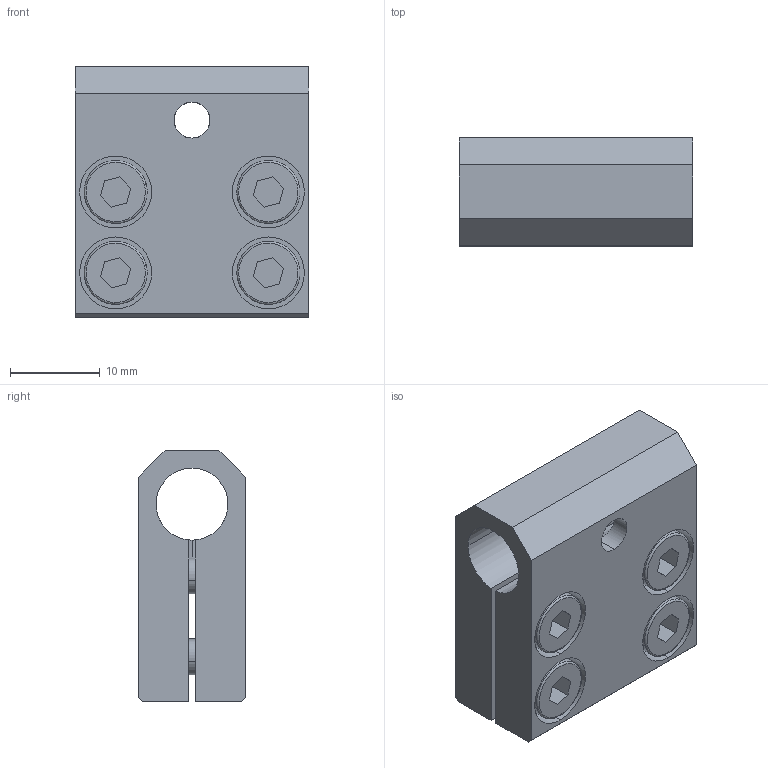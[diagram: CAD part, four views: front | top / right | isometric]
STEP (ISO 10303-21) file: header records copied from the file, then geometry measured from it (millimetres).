
FILE_DESCRIPTION (( 'STEP AP214' ), '1' );
FILE_NAME ('SMBF1-0808T.STEP', '2022-12-28T07:36:02', ( 'Windows User' ), ( 'P R C' ), 'SwSTEP 2.0', 'SolidWorks 2018', '' );
FILE_SCHEMA (( 'AUTOMOTIVE_DESIGN' ));
Length unit declared in the file: millimetre
Products named in the file (1): SMBF1-0808T
Bounding box: 26 x 12 x 28 mm (x, y, z)
Volume: 5712.8 mm3; surface area: 6196.4 mm2
Topology: 9 solids, 9 shells, 911 faces, 2628 edges, 1735 vertices
Faces by surface type: plane 828, cylinder 67, cone 8, bspline 8
Entity records: 40766 total; most frequent: CARTESIAN_POINT 5887, DIRECTION 5281, ORIENTED_EDGE 5256, EDGE_CURVE 2628, AXIS2_PLACEMENT_3D 1777, VERTEX_POINT 1735, LINE 1727, VECTOR 1727
